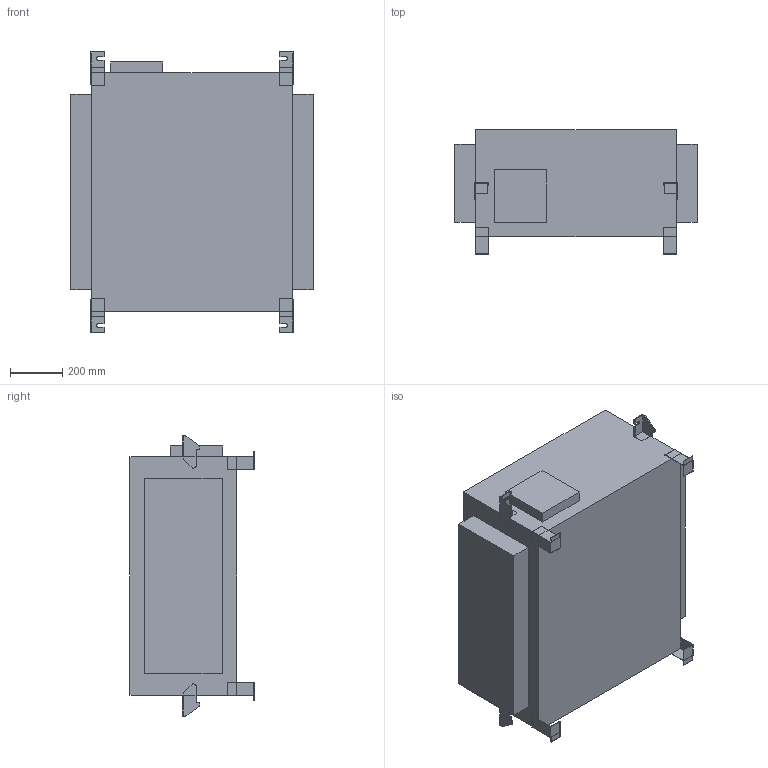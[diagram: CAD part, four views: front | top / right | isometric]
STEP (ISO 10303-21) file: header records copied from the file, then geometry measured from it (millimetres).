
FILE_DESCRIPTION (( 'STEP AP203' ), '1' );
FILE_NAME ('BIS-601標準用モックアップデータ.STEP', '2021-12-02T01:48:40', ( '' ), ( '' ), 'SwSTEP 2.0', 'SolidWorks 2020', '' );
FILE_SCHEMA (( 'CONFIG_CONTROL_DESIGN' ));
Length unit declared in the file: millimetre
Products named in the file (1): BIS-601標準用モックアップデータ
Bounding box: 929 x 475 x 1073.6 mm (x, y, z)
Volume: 325011017.7 mm3; surface area: 3304774.5 mm2
Topology: 1 solids, 1 shells, 233 faces, 664 edges, 432 vertices
Faces by surface type: plane 177, cylinder 56
Entity records: 7587 total; most frequent: CARTESIAN_POINT 1330, ORIENTED_EDGE 1328, DIRECTION 1244, EDGE_CURVE 664, LINE 552, VECTOR 552, VERTEX_POINT 432, AXIS2_PLACEMENT_3D 346
